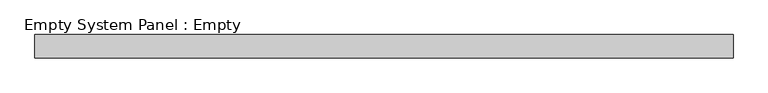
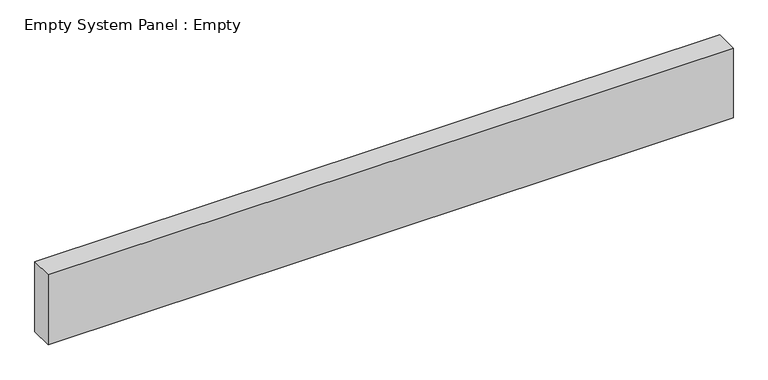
"""IFC4 building model written with IfcOpenShell, lengths in millimetres: plate geometry, Empty System Panel : Empty."""

import ifcopenshell
import ifcopenshell.guid

model = None  # the IFC model being written
_history = None  # IfcOwnerHistory: only IFC2X3 demands one
_inside = {}  # id of a spatial element -> (the spatial element, [elements in it])
_under = {}  # id of a project, library or spatial element -> (it, [spatial elements below it])
_declared = {}  # id of a project -> (the project, [libraries it declares])
_typed = {}  # id of a type object -> (the type object, [elements of that type])
_made_of = {}  # id of a material, layer set ... -> (it, [elements and type objects made of it])


def new_model(schema):
    """Start an empty IFC model of exactly this schema.

    Asked for "IFC4X3", IfcOpenShell would pick the latest addendum, in which some entities
    have other attributes; the version numbers below select the first issue.
    IFC2X3 requires an IfcOwnerHistory on every rooted entity: one is made here for all.
    """
    global model, _history
    if schema == "IFC4X3":
        model = ifcopenshell.file(schema_version=(4, 3, 0, 0))
    else:
        model = ifcopenshell.file(schema=schema)
    _inside.clear()
    _under.clear()
    _declared.clear()
    _typed.clear()
    _made_of.clear()
    _history = None
    if model.schema == "IFC2X3":
        org = make("IfcOrganization", Name="unknown")
        user = make(
            "IfcPersonAndOrganization",
            ThePerson=make("IfcPerson", FamilyName="unknown"),
            TheOrganization=org,
        )
        app = make(
            "IfcApplication",
            ApplicationDeveloper=org,
            Version="unknown",
            ApplicationFullName="unknown",
            ApplicationIdentifier="unknown",
        )
        _history = make(
            "IfcOwnerHistory",
            OwningUser=user,
            OwningApplication=app,
            ChangeAction="ADDED",
            CreationDate=0,
        )
    return model


def make(cls, **values):
    """One entity of the class cls with the attributes given. An attribute that is None is left unset."""
    return model.create_entity(
        cls, **{name: value for name, value in values.items() if value is not None}
    )


def rooted(cls, **values):
    """An entity with a GlobalId (a new one), such as an element, a storey or a relation."""
    return make(cls, GlobalId=ifcopenshell.guid.new(), OwnerHistory=_history, **values)


def si_unit(unit_type, name, prefix=None):
    """IfcSIUnit, for example si_unit("LENGTHUNIT", "METRE", prefix="MILLI")."""
    return make("IfcSIUnit", UnitType=unit_type, Prefix=prefix, Name=name)


def assignment(units):
    """IfcUnitAssignment: the units of a project."""
    return None if units is None else make("IfcUnitAssignment", Units=units)


def point(xyz):
    """IfcCartesianPoint."""
    return None if xyz is None else make("IfcCartesianPoint", Coordinates=xyz)


def direction(xyz):
    """IfcDirection."""
    return None if xyz is None else make("IfcDirection", DirectionRatios=xyz)


def frame(location, z_axis=None, x_axis=None):
    """IfcAxis2Placement3D, a coordinate frame: its origin and axes. An axis left out is left unset."""
    return make(
        "IfcAxis2Placement3D",
        Location=point(location),
        Axis=direction(z_axis),
        RefDirection=direction(x_axis),
    )


def origin():
    """The frame at (0, 0, 0) with its axes left unset."""
    return frame((0.0, 0.0, 0.0))


def origin_with_axes():
    """The frame at (0, 0, 0) with the z axis (0, 0, 1) and the x axis (1, 0, 0) written out."""
    return frame((0.0, 0.0, 0.0), z_axis=(0.0, 0.0, 1.0), x_axis=(1.0, 0.0, 0.0))


def place(relative_to, where):
    """IfcLocalPlacement: puts the frame where relative to a parent placement (None: the world)."""
    return make(
        "IfcLocalPlacement", PlacementRelTo=relative_to, RelativePlacement=where
    )


def context(
    kind, dimensions, precision=None, world=None, true_north=None, identifier=None
):
    """IfcGeometricRepresentationContext, for example the 3D "Model" context."""
    return make(
        "IfcGeometricRepresentationContext",
        ContextIdentifier=identifier,
        ContextType=kind,
        CoordinateSpaceDimension=dimensions,
        Precision=precision,
        WorldCoordinateSystem=world,
        TrueNorth=true_north,
    )


def project(units=None, contexts=None):
    """IfcProject with its units and contexts."""
    return rooted(
        "IfcProject",
        Name="project",
        RepresentationContexts=contexts,
        UnitsInContext=assignment(units),
    )


def spatial(cls, under=None, at=None, **own):
    """A site, building, storey or space (cls), placed at a placement, below another one or the project."""
    s = rooted(cls, ObjectPlacement=at, **own)
    if under is not None:
        _under.setdefault(under.id(), (under, []))[1].append(s)
    return s


def polyline(points):
    """IfcPolyline through the points."""
    return make("IfcPolyline", Points=[point(p) for p in points])


def outline(outer, holes=None, kind="AREA"):
    """IfcArbitraryClosedProfileDef: a profile drawn as a closed curve; with holes, ...WithVoids."""
    if holes is None:
        return make("IfcArbitraryClosedProfileDef", ProfileType=kind, OuterCurve=outer)
    return make(
        "IfcArbitraryProfileDefWithVoids",
        ProfileType=kind,
        OuterCurve=outer,
        InnerCurves=holes,
    )


def extrude(swept, where, along, depth):
    """IfcExtrudedAreaSolid: the profile swept, set in the frame where, extruded along a direction by depth."""
    return make(
        "IfcExtrudedAreaSolid",
        SweptArea=swept,
        Position=where,
        ExtrudedDirection=direction(along),
        Depth=depth,
    )


def shape(context_of_items, identifier, shape_type, items):
    """IfcShapeRepresentation: the items that make up one representation, for example the "Body"."""
    return make(
        "IfcShapeRepresentation",
        ContextOfItems=context_of_items,
        RepresentationIdentifier=identifier,
        RepresentationType=shape_type,
        Items=items,
    )


def source(mapping_origin, context_of_items, identifier, shape_type, items):
    """IfcRepresentationMap: a shape defined once, which mapped items show again and again."""
    return make(
        "IfcRepresentationMap",
        MappingOrigin=mapping_origin,
        MappedRepresentation=shape(context_of_items, identifier, shape_type, items),
    )


def transform(
    local_origin,
    x_axis=None,
    y_axis=None,
    z_axis=None,
    scale=None,
    scale2=None,
    scale3=None,
    uniform=True,
):
    """IfcCartesianTransformationOperator3D, or its non-uniform kind. x_axis, y_axis, z_axis: its Axis1, 2, 3."""
    if uniform:
        return make(
            "IfcCartesianTransformationOperator3D",
            Axis1=direction(x_axis),
            Axis2=direction(y_axis),
            LocalOrigin=point(local_origin),
            Scale=scale,
            Axis3=direction(z_axis),
        )
    return make(
        "IfcCartesianTransformationOperator3DnonUniform",
        Axis1=direction(x_axis),
        Axis2=direction(y_axis),
        LocalOrigin=point(local_origin),
        Scale=scale,
        Axis3=direction(z_axis),
        Scale2=scale2,
        Scale3=scale3,
    )


def mapped(mapping_source, mapping_target):
    """IfcMappedItem: shows the shape of a source again, moved by a transform."""
    return make(
        "IfcMappedItem", MappingSource=mapping_source, MappingTarget=mapping_target
    )


def made_of(thing, what):
    """Note that an element or type object is made of a material, layer set ...; save() writes the relation."""
    if what is not None:
        _made_of.setdefault(what.id(), (what, []))[1].append(thing)
    return thing


def element(
    cls,
    number,
    at=None,
    inside=None,
    cuts=None,
    type_object=None,
    material=None,
    context=None,
    identifier="Body",
    shape_type=None,
    held_by="IfcProductDefinitionShape",
    body=None,
    shapes=None,
    **own,
):
    """One element of the class cls, such as IfcWall. Its Tag is "e" and its number.

    at: its placement. inside: the storey or other place that contains it. cuts: it is an
    opening in that element (IfcRelVoidsElement). A single representation is given by context,
    identifier, shape_type and body (its items); several are given by shapes. held_by: the class
    of the entity that holds the representations. save() writes the other relations.
    """
    e = rooted(cls, Tag="e%d" % number, ObjectPlacement=at, **own)
    if body is not None:
        shapes = [shape(context, identifier, shape_type, body)]
    if shapes is not None:
        e.Representation = make(held_by, Representations=shapes)
    if inside is not None:
        _inside.setdefault(inside.id(), (inside, []))[1].append(e)
    if cuts is not None:
        rooted(
            "IfcRelVoidsElement", RelatingBuildingElement=cuts, RelatedOpeningElement=e
        )
    if type_object is not None:
        _typed.setdefault(type_object.id(), (type_object, []))[1].append(e)
    return made_of(e, material)


def aggregate(whole, parts):
    """IfcRelAggregates: a whole, such as a stair, and the parts it consists of."""
    return rooted("IfcRelAggregates", RelatingObject=whole, RelatedObjects=parts)


def save(model, path):
    """Write the relations noted so far, then the file.

    IfcRelAggregates (storeys below a building ...), IfcRelContainedInSpatialStructure (elements
    in a storey), IfcRelDefinesByType, IfcRelAssociatesMaterial and IfcRelDeclares: one each for
    every whole, place, type object, material and project.
    """
    for whole, parts in _under.values():
        aggregate(whole, parts)
    for where, things in _inside.values():
        rooted(
            "IfcRelContainedInSpatialStructure",
            RelatedElements=things,
            RelatingStructure=where,
        )
    for kind, things in _typed.values():
        rooted("IfcRelDefinesByType", RelatedObjects=things, RelatingType=kind)
    for what, things in _made_of.values():
        rooted("IfcRelAssociatesMaterial", RelatedObjects=things, RelatingMaterial=what)
    for by, libraries in _declared.values():
        rooted("IfcRelDeclares", RelatingContext=by, RelatedDefinitions=libraries)
    model.write(path)


def empty_system_panel_empty_e21ca438(model_context):
    return source(origin(), model_context, "Body", "SweptSolid", [
        extrude(outline(polyline([(1500.0, -50.0), (-1500.0, -50.0), (-1500.0, 50.0), (1500.0, 50.0), (1500.0, -50.0)])), origin_with_axes(), (0.0, 0.0, 1.0), 323.8370491),
    ])


if __name__ == "__main__":
    model = new_model("IFC4")
    model_context = context("Model", 3, world=origin())
    ifc_project = project(units=[si_unit("LENGTHUNIT", "METRE", prefix="MILLI")], contexts=[model_context])
    site = spatial("IfcSite", under=ifc_project)
    building = spatial("IfcBuilding", under=site)
    placement = place(None, origin())
    empty_system_panel_empty_shape = empty_system_panel_empty_e21ca438(model_context)
    element("IfcPlate", 1, ObjectType="Empty System Panel : Empty", at=placement, inside=building, context=model_context, shape_type="MappedRepresentation", body=[
        mapped(empty_system_panel_empty_shape, transform((0.0, 0.0, 0.0), x_axis=(1.0, 0.0, 0.0), y_axis=(0.0, 1.0, 0.0), z_axis=(0.0, 0.0, 1.0))),
    ])
    save(model, "model.ifc")
